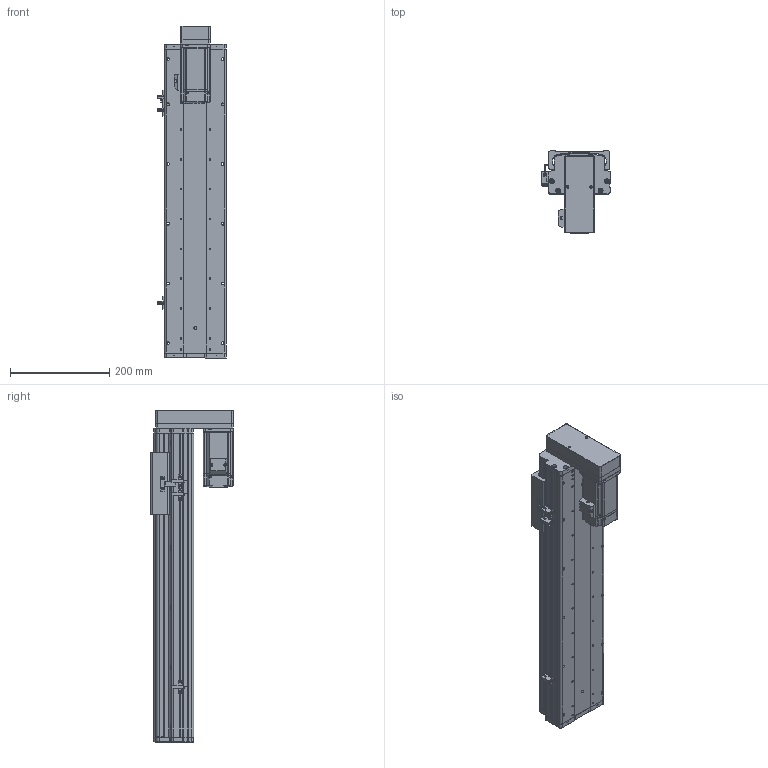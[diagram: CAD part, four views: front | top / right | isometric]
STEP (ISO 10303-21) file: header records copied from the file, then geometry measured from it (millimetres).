
FILE_DESCRIPTION (( 'STEP AP214' ), '1' );
FILE_NAME ('KSD125S-S400-MD-CM.STEP', '2017-10-21T08:00:59', ( '微软用户' ), ( '微软中国' ), 'SwSTEP 2.0', 'SolidWorks 2014', '' );
FILE_SCHEMA (( 'AUTOMOTIVE_DESIGN' ));
Length unit declared in the file: millimetre
Products named in the file (16): KSD125S-400俴最佪裝滅鳥裔; KSD125S-400俴最佪裝菁啣; 拸萇儂釱滅袉菜; 拸萇儂釱滅袉菜-1; 覜茼え68遵圉猾敕; U倰嫖萇假蚾璃; U倰嫖萇EEㄜSX672; ヶ傷啣-125遵耀郪; KSD125-賑雄釱1; 125-帣傷啣1; KSD125S-S400-MD-CM; 125宽马达安装板连板上下折丝杆同步带; 125遵悵誘欶奻狟殏; HTPA30S3M150_A_H6_a佪裝蚚; HTPA30S3M150_A_H6_a萇儂蚚; MHMD042G1CA_2_03
Assembly tree (19 placements, depth 2):
  KSD125S-S400-MD-CM
    125-帣傷啣1
    KSD125-賑雄釱1
    ヶ傷啣-125遵耀郪
    U倰嫖萇EEㄜSX672  x3
    U倰嫖萇假蚾璃  x3
    覜茼え68遵圉猾敕
    拸萇儂釱滅袉菜-1
    拸萇儂釱滅袉菜
    KSD125S-400俴最佪裝菁啣
    KSD125S-400俴最佪裝滅鳥裔
    MHMD042G1CA_2_03
    HTPA30S3M150_A_H6_a萇儂蚚
    HTPA30S3M150_A_H6_a佪裝蚚
    125遵悵誘欶奻狟殏
    125宽马达安装板连板上下折丝杆同步带
Bounding box: 138.7 x 165 x 667.5 mm (x, y, z)
Volume: 2347317.6 mm3; surface area: 820375.6 mm2
Topology: 18 solids, 21 shells, 2179 faces, 6315 edges, 4165 vertices
Faces by surface type: cylinder 1358, plane 680, cone 119, bspline 22
Entity records: 77915 total; most frequent: CARTESIAN_POINT 15613, DIRECTION 11973, ORIENTED_EDGE 11138, EDGE_CURVE 5647, AXIS2_PLACEMENT_3D 4623, VERTEX_POINT 3757, VECTOR 2727, LINE 2727
